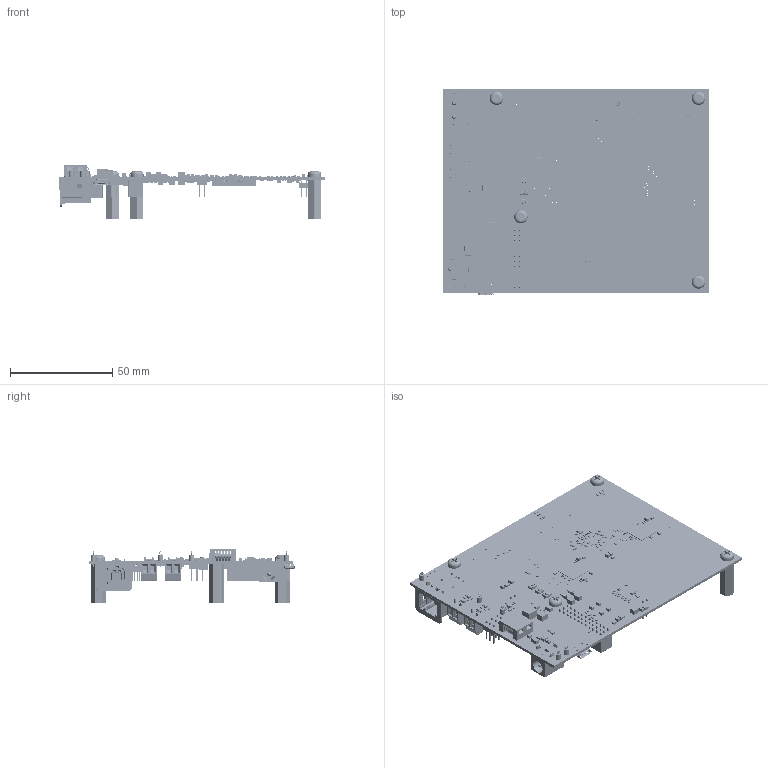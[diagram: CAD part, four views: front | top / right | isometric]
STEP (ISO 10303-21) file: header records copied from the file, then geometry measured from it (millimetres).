
FILE_DESCRIPTION(('Open CASCADE Model'),'2;1');
FILE_NAME('Open CASCADE Shape Model','2025-04-29T12:22:30',('Author'),( 'Open CASCADE'),'Open CASCADE STEP processor 7.5','Open CASCADE 7.5' ,'Unknown');
FILE_SCHEMA(('AUTOMOTIVE_DESIGN { 1 0 10303 214 1 1 1 1 }'));
Length unit declared in the file: millimetre
Products named in the file (831): PCB; Board; Open CASCADE STEP translator 7.5 1.1.1; R101; 6713976496; Extruded; 6713976336; R107; R241; 6713977856; 6713977696; R70; R12; R240; R236; 6713974496; 6713974336; R237; 6713974096; 6713973936; FB1; FBead_BLM18KG601SH1_0603 (1608 Metric); 1; 2; Murata Logo 3; C242; C112; C110; C104; U21; IC_LP876724A2RQKRQ1_VQFN-HR32; body; pins; logo; C92; 6713975376; 6713975216; U3; IC_MX25V1635FZUS03_USON8; 3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
Assembly tree (2533 placements, depth 5):
  PCB
    Board
      Open CASCADE STEP translator 7.5 1.1.1
    R101
      6713976496  x2
        Extruded
      6713976336
        Extruded
    R107
      6713976496  x2
        Extruded
      6713976336
        Extruded
    R241
      6713977856  x2
        Extruded
      6713977696
        Extruded
    R70
      6713977856  x2
        Extruded
      6713977696
        Extruded
    R12
      6713977856  x2
        Extruded
      6713977696
        Extruded
    R240
      6713976496  x2
        Extruded
      6713976336
        Extruded
    R236
      6713974496  x2
        Extruded
      6713974336
        Extruded
    R237
      6713974096  x2
        Extruded
      6713973936
        Extruded
    FB1
      FBead_BLM18KG601SH1_0603 (1608 Metric)
        1
        2
        Murata Logo 3
    C242
      6713977856  x2
        Extruded
      6713977696
        Extruded
    C112
      6713976496  x2
        Extruded
      6713976336
        Extruded
    C110
      6713974496  x2
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Bounding box: 130 x 101.14 x 26.87 mm (x, y, z)
Volume: 29754.2 mm3; surface area: 55331 mm2
Topology: 2770 solids, 2770 shells, 28813 faces, 71518 edges, 46794 vertices
Faces by surface type: plane 21310, cylinder 3134, bspline 2805, sphere 1207, cone 158, extrusion 139, torus 36, revolution 24
Full cylindrical faces by diameter (mm): 0.158 x1, 0.18 x4, 0.188 x1, 0.198 x1, 0.3 x1, 0.4 x1, 0.45 x38, 0.5 x1, 0.53 x1, 0.85 x2, 1 x8, 1.016 x18, 1.02 x2, 1.04 x36, 1.1 x4, 1.6 x1, 2 x2, 2.25 x2, 2.5 x5, 2.845 x176, 5 x10, 6.604 x4
Entity records: 488066 total; most frequent: CARTESIAN_POINT 114701, ORIENTED_EDGE 70406, DIRECTION 63582, EDGE_CURVE 35203, VECTOR 26756, LINE 26617, VERTEX_POINT 23447, AXIS2_PLACEMENT_3D 18405
